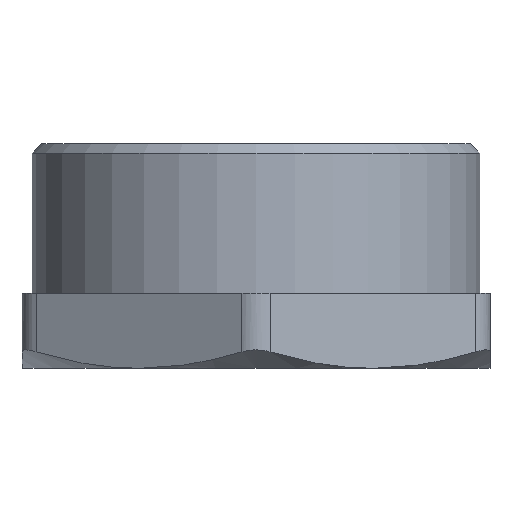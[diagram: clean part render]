
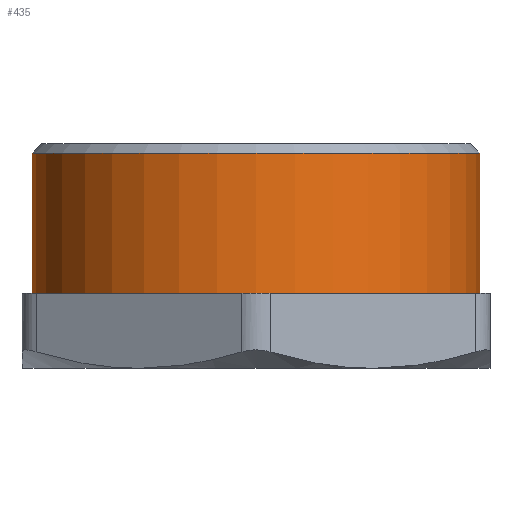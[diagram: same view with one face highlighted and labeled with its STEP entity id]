
A CAD part, left-side view. The second image highlights one B-rep face of the part: STEP entity #435.
In plain terms, the highlighted cylindrical face has radius 23.901 mm (diameter 47.803 mm), a full revolution.
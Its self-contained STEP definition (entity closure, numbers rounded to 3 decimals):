
#19=FACE_BOUND('',#135,.T.);
#32=CYLINDRICAL_SURFACE('',#489,23.902);
#101=FACE_OUTER_BOUND('',#134,.T.);
#134=EDGE_LOOP('',(#384));
#135=EDGE_LOOP('',(#385));
#162=CIRCLE('',#479,23.902);
#163=CIRCLE('',#485,23.902);
#220=VERTEX_POINT('',#795);
#221=VERTEX_POINT('',#805);
#275=EDGE_CURVE('',#220,#220,#162,.T.);
#279=EDGE_CURVE('',#221,#221,#163,.T.);
#384=ORIENTED_EDGE('',*,*,#275,.F.);
#385=ORIENTED_EDGE('',*,*,#279,.F.);
#435=ADVANCED_FACE('',(#101,#19),#32,.T.);
#479=AXIS2_PLACEMENT_3D('',#796,#575,#576);
#485=AXIS2_PLACEMENT_3D('',#806,#590,#591);
#489=AXIS2_PLACEMENT_3D('',#812,#598,#599);
#575=DIRECTION('center_axis',(0.,0.,-1.));
#576=DIRECTION('ref_axis',(-1.,0.,0.));
#590=DIRECTION('center_axis',(0.,0.,1.));
#591=DIRECTION('ref_axis',(-1.,0.,0.));
#598=DIRECTION('center_axis',(0.,0.,1.));
#599=DIRECTION('ref_axis',(-1.,0.,0.));
#795=CARTESIAN_POINT('',(23.902,0.,0.));
#796=CARTESIAN_POINT('Origin',(0.,0.,0.));
#805=CARTESIAN_POINT('',(23.902,0.,15.));
#806=CARTESIAN_POINT('Origin',(0.,0.,15.));
#812=CARTESIAN_POINT('Origin',(0.,0.,0.));
